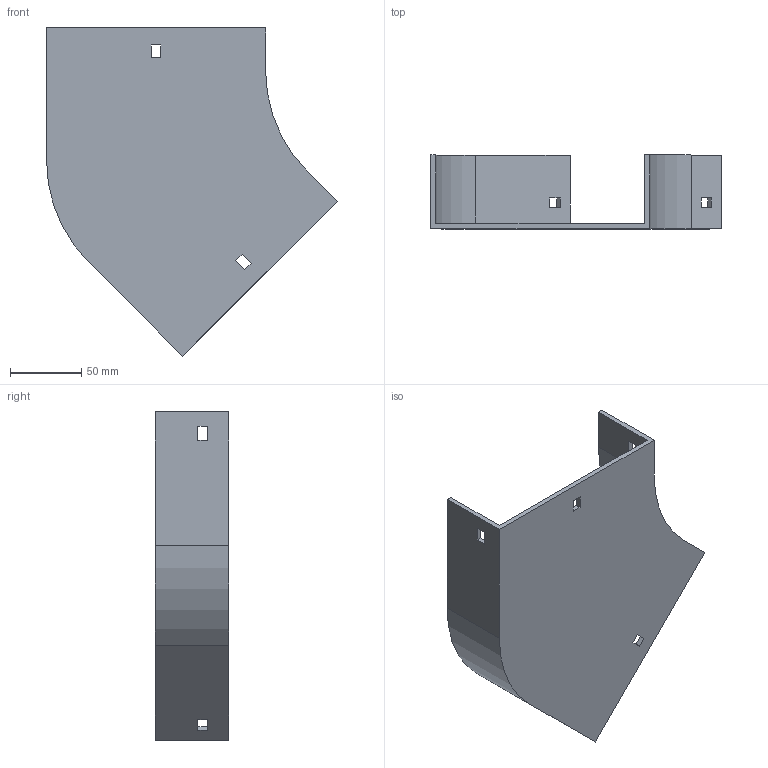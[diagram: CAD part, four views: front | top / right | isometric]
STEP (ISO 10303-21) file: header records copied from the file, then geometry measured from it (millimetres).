
FILE_DESCRIPTION (( 'STEP AP214' ), '1' );
FILE_NAME ('11F1B150.step', '2025-02-21T12:55:31', ( '' ), ( '' ), 'SwSTEP 2.0', 'SolidWorks 2023', '' );
FILE_SCHEMA (( 'AUTOMOTIVE_DESIGN' ));
Length unit declared in the file: millimetre
Products named in the file (1): 11F1B150
Bounding box: 204.5 x 52 x 230.82 mm (x, y, z)
Volume: 178675.5 mm3; surface area: 105966.6 mm2
Topology: 1 solids, 1 shells, 42 faces, 120 edges, 80 vertices
Faces by surface type: plane 38, cylinder 4
Entity records: 1399 total; most frequent: CARTESIAN_POINT 243, ORIENTED_EDGE 240, DIRECTION 214, EDGE_CURVE 120, LINE 112, VECTOR 112, VERTEX_POINT 80, EDGE_LOOP 54
